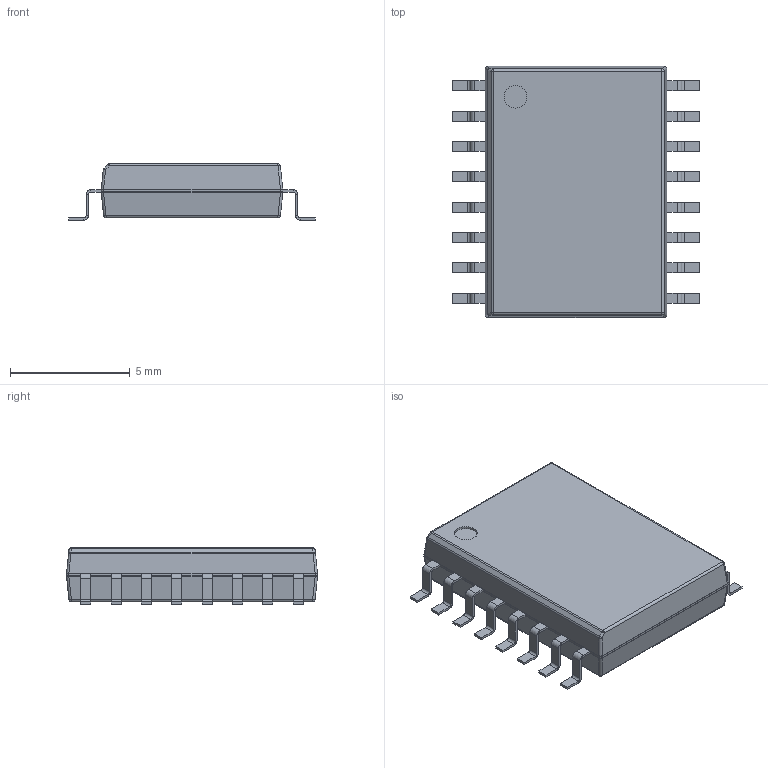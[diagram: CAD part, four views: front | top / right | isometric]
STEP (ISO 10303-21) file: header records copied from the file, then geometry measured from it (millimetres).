
FILE_DESCRIPTION(('Open CASCADE Model'),'2;1');
FILE_NAME('Open CASCADE Shape Model','2020-03-29T19:53:27',('Author'),( 'Open CASCADE'),'Open CASCADE STEP processor 6.8','Open CASCADE 6.8' ,'Unknown');
FILE_SCHEMA(('AUTOMOTIVE_DESIGN_CC2 { 1 2 10303 214 -1 1 5 4 }'));
Length unit declared in the file: millimetre
Products named in the file (5): SOIC127P1030X237-16N.step; Open CASCADE STEP translator 6.8 1.1; Body; Open CASCADE STEP translator 6.8 1.2.1; Leader
Assembly tree (19 placements, depth 3):
  SOIC127P1030X237-16N.step
    Open CASCADE STEP translator 6.8 1.1
    Body
      Open CASCADE STEP translator 6.8 1.2.1
    Leader  x16
Bounding box: 10.32 x 10.5 x 2.37 mm (x, y, z)
Volume: 177.6 mm3; surface area: 271.9 mm2
Topology: 17 solids, 18 shells, 419 faces, 842 edges, 449 vertices
Faces by surface type: plane 305, cylinder 96, sphere 10, bspline 8
Full cylindrical faces by diameter (mm): 0.95 x1
Entity records: 5549 total; most frequent: CARTESIAN_POINT 1992, DIRECTION 601, ORIENTED_EDGE 343, PCURVE 343, DEFINITIONAL_REPRESENTATION 343, LINE 311, VECTOR 311, EDGE_CURVE 172
